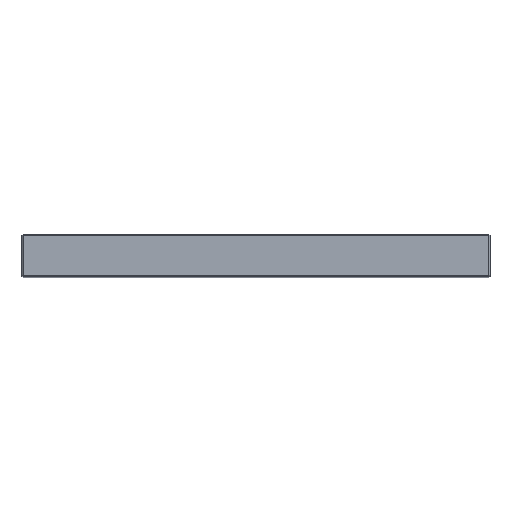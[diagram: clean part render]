
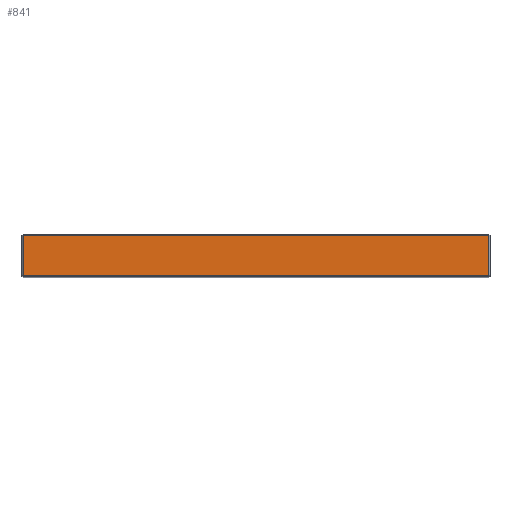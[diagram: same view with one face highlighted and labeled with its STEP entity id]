
A CAD part, top view. The second image highlights one B-rep face of the part: STEP entity #841.
In plain terms, the highlighted planar face has unit normal (0, 0, 1).
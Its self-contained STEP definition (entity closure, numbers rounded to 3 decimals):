
#31 = CARTESIAN_POINT ( 'NONE',  ( -197., 1., 298. ) ) ;
#78 = LINE ( 'NONE', #1104, #2190 ) ;
#280 = CARTESIAN_POINT ( 'NONE',  ( 197., 35., 298. ) ) ;
#287 = VERTEX_POINT ( 'NONE', #1130 ) ;
#378 = AXIS2_PLACEMENT_3D ( 'NONE', #1674, #1757, #779 ) ;
#432 = VECTOR ( 'NONE', #947, 1000. ) ;
#520 = DIRECTION ( 'NONE',  ( -1., 0., 0. ) ) ;
#535 = FACE_OUTER_BOUND ( 'NONE', #2131, .T. ) ;
#541 = LINE ( 'NONE', #836, #1561 ) ;
#779 = DIRECTION ( 'NONE',  ( -1., 0., 0. ) ) ;
#836 = CARTESIAN_POINT ( 'NONE',  ( -198., 35., 298. ) ) ;
#841 = ADVANCED_FACE ( 'NONE', ( #535 ), #1634, .F. ) ;
#847 = DIRECTION ( 'NONE',  ( 0., -1., 0. ) ) ;
#848 = VERTEX_POINT ( 'NONE', #1555 ) ;
#929 = CARTESIAN_POINT ( 'NONE',  ( 197., 36., 298. ) ) ;
#947 = DIRECTION ( 'NONE',  ( 1., 0., 0. ) ) ;
#949 = VECTOR ( 'NONE', #975, 1000. ) ;
#975 = DIRECTION ( 'NONE',  ( 0., 1., 0. ) ) ;
#1035 = CARTESIAN_POINT ( 'NONE',  ( 198., 1., 298. ) ) ;
#1104 = CARTESIAN_POINT ( 'NONE',  ( -197., 36., 298. ) ) ;
#1130 = CARTESIAN_POINT ( 'NONE',  ( -197., 35., 298. ) ) ;
#1226 = LINE ( 'NONE', #1035, #432 ) ;
#1256 = EDGE_CURVE ( 'NONE', #848, #2275, #2156, .T. ) ;
#1261 = EDGE_CURVE ( 'NONE', #1704, #848, #1226, .T. ) ;
#1272 = EDGE_CURVE ( 'NONE', #287, #1704, #78, .T. ) ;
#1276 = EDGE_CURVE ( 'NONE', #2275, #287, #541, .T. ) ;
#1499 = ORIENTED_EDGE ( 'NONE', *, *, #1276, .T. ) ;
#1555 = CARTESIAN_POINT ( 'NONE',  ( 197., 1., 298. ) ) ;
#1561 = VECTOR ( 'NONE', #520, 1000. ) ;
#1634 = PLANE ( 'NONE',  #378 ) ;
#1674 = CARTESIAN_POINT ( 'NONE',  ( 198., 36., 298. ) ) ;
#1704 = VERTEX_POINT ( 'NONE', #31 ) ;
#1739 = ORIENTED_EDGE ( 'NONE', *, *, #1256, .T. ) ;
#1757 = DIRECTION ( 'NONE',  ( 0., 0., -1. ) ) ;
#1933 = ORIENTED_EDGE ( 'NONE', *, *, #1261, .T. ) ;
#2131 = EDGE_LOOP ( 'NONE', ( #1499, #2154, #1933, #1739 ) ) ;
#2154 = ORIENTED_EDGE ( 'NONE', *, *, #1272, .T. ) ;
#2156 = LINE ( 'NONE', #929, #949 ) ;
#2190 = VECTOR ( 'NONE', #847, 1000. ) ;
#2275 = VERTEX_POINT ( 'NONE', #280 ) ;
